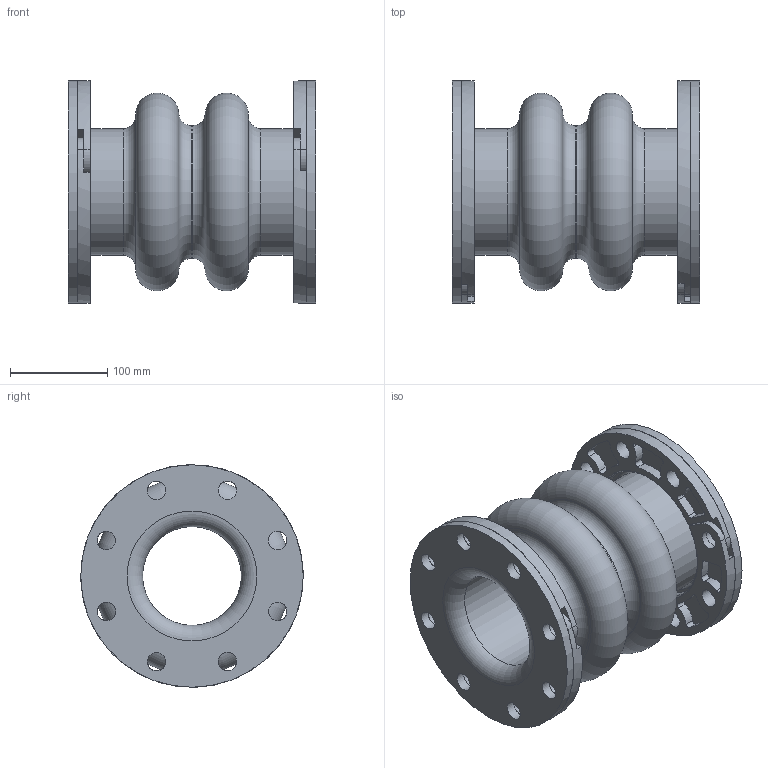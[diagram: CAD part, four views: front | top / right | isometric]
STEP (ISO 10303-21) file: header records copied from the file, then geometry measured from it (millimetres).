
FILE_DESCRIPTION(/* description */ (''),/* implementation_level */ '2;1');
FILE_NAME(/* name */ 'C:\001_Work\Designs\Mercer2014\MQInventor2014\RajR\500 Style\502\STP\502 4IDx10FF.stp',/* time_stamp */ '2016-03-16T14:17:16-04:00',/* author */ ('mquog'),/* organization */ (''),/* preprocessor_version */ 'ST-DEVELOPER v15.2',/* originating_system */ 'Autodesk Inventor 2014',/* authorisation */ '');
FILE_SCHEMA (('AUTOMOTIVE_DESIGN { 1 0 10303 214 3 1 1 }'));
Length unit declared in the file: centimetre
Products named in the file (1): 502 4IDx10FF
Bounding box: 254 x 228.6 x 228.6 mm (x, y, z)
Volume: 3135167.9 mm3; surface area: 588640.8 mm2
Topology: 3 solids, 3 shells, 292 faces, 764 edges, 492 vertices
Faces by surface type: cylinder 188, plane 76, torus 20, cone 8
Full cylindrical faces by diameter (mm): 19.05 x36, 101.6 x3, 130.175 x2, 136.525 x1, 228.6 x2
Entity records: 9392 total; most frequent: DIRECTION 1722, CARTESIAN_POINT 1617, ORIENTED_EDGE 1392, AXIS2_PLACEMENT_3D 745, EDGE_CURVE 696, VERTEX_POINT 488, CIRCLE 452, EDGE_LOOP 440
